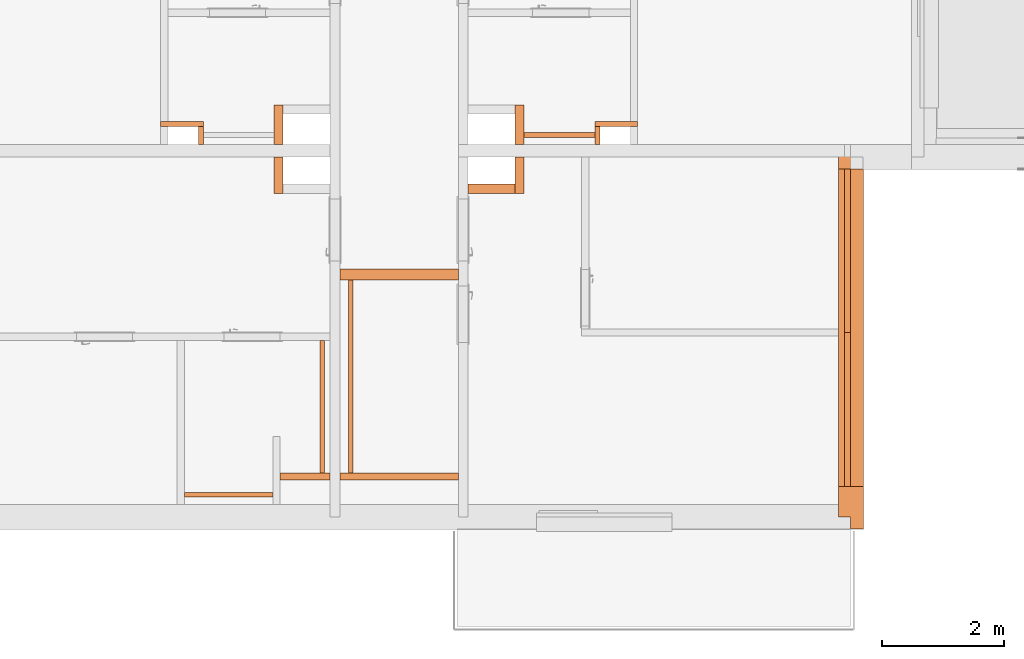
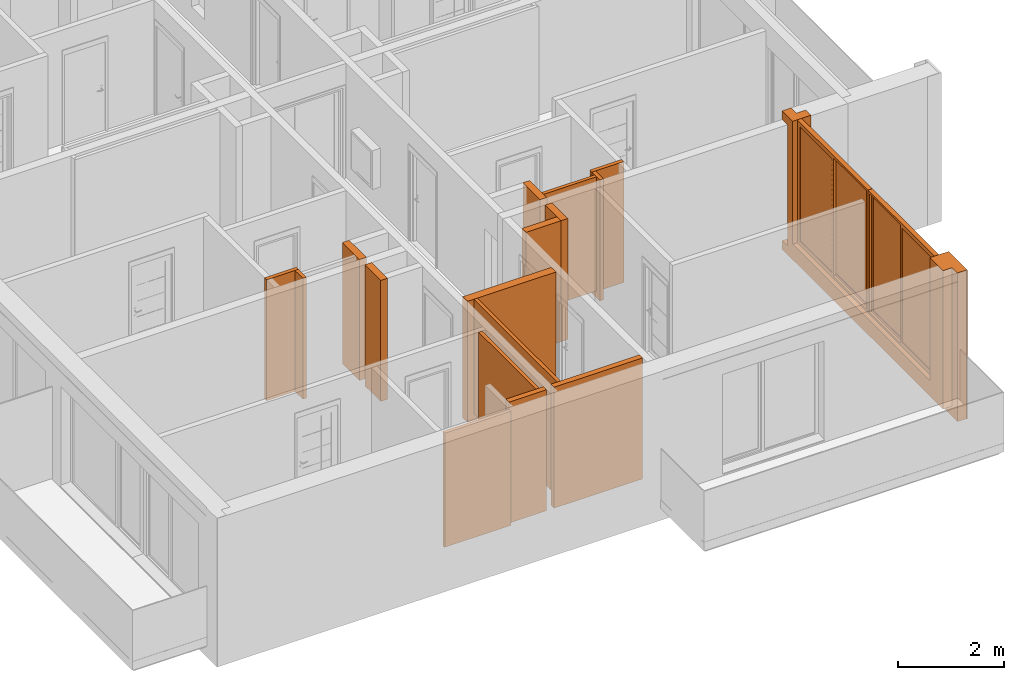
# One storey, part 64 of 67: 19 proxies, 2 openings.
"""IFC2X3 building model written with IfcOpenShell, lengths in millimetres."""

from ifc_helpers import new_model, entity, si_unit, converted_unit, derived_unit, money_unit, direction, frame, origin_with_axes, origin_2d_with_axis, place, context, subcontext, project, spatial, rectangle, extrude, open_shell, faceted_brep, surface_model, material, material_list, type_object, element, fill, save


model = new_model("IFC2X3")

# Units and contexts
model_context = context("Model", 3, precision=0.01, world=origin_with_axes(), true_north=direction((0.34421633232, 0.938890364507)))
body_context = subcontext(model_context, "Body", "Model", "MODEL_VIEW")
ifc_project = project(units=[si_unit("LENGTHUNIT", "METRE", prefix="MILLI"), si_unit("AREAUNIT", "SQUARE_METRE"), si_unit("VOLUMEUNIT", "CUBIC_METRE"), converted_unit("PLANEANGLEUNIT", "DEGREE", entity("IfcPlaneAngleMeasure", 0.0174532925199), si_unit("PLANEANGLEUNIT", "RADIAN"), dimensions=[0, 0, 0, 0, 0, 0, 0]), si_unit("SOLIDANGLEUNIT", "STERADIAN"), money_unit("USD"), converted_unit("TIMEUNIT", "Year", entity("IfcTimeMeasure", 31556926.0), si_unit("TIMEUNIT", "SECOND"), dimensions=[0, 0, 1, 0, 0, 0, 0]), si_unit("MASSUNIT", "GRAM", prefix="KILO"), si_unit("THERMODYNAMICTEMPERATUREUNIT", "DEGREE_CELSIUS"), si_unit("LUMINOUSINTENSITYUNIT", "LUMEN"), si_unit("ENERGYUNIT", "JOULE", prefix="MEGA"), derived_unit("THERMALCONDUCTANCEUNIT", [(si_unit("POWERUNIT", "WATT"), 1), (si_unit("LENGTHUNIT", "METRE"), -1), (si_unit("THERMODYNAMICTEMPERATUREUNIT", "KELVIN"), -1)]), derived_unit("SPECIFICHEATCAPACITYUNIT", [(si_unit("ENERGYUNIT", "JOULE"), 1), (si_unit("MASSUNIT", "GRAM", prefix="KILO"), -1), (si_unit("THERMODYNAMICTEMPERATUREUNIT", "KELVIN"), -1)]), derived_unit("MASSDENSITYUNIT", [(si_unit("MASSUNIT", "GRAM", prefix="KILO"), 1), (si_unit("VOLUMEUNIT", "CUBIC_METRE"), -1)])], contexts=[model_context])

# Site, building, storey
site_placement = place(None, origin_with_axes())
site = spatial("IfcSite", under=ifc_project, at=site_placement, Name="USTRONIE MORSKIE", CompositionType="ELEMENT")
building_placement = place(site_placement, origin_with_axes())
building = spatial("IfcBuilding", under=site, at=building_placement, Name="Budynek", CompositionType="ELEMENT")
storey_placement = place(building_placement, frame((0.0, 0.0, 4000.0), z_axis=(0.0, 0.0, 1.0), x_axis=(1.0, 0.0, 0.0)))
storey = spatial("IfcBuildingStorey", under=building, at=storey_placement, Name="PIĘTRO 1", CompositionType="ELEMENT", Elevation=4000.0)

# Proxies
ifc_material_1 = material(Name="Bloczki silikatowe")
building_element_proxy_type_1 = type_object("IfcBuildingElementProxyType", Name="Bloczki silikatowe 120", PredefinedType="NOTDEFINED")
proxy_1_placement = place(storey_placement, frame((416017.920919, 709701.199036, -160.0), z_axis=(0.0, 0.0, 1.0), x_axis=(1.0, 0.0, 0.0)))
element("IfcBuildingElementProxy", 1, at=proxy_1_placement, inside=storey, type_object=building_element_proxy_type_1, material=ifc_material_1, Name="SW-04", context=body_context, shape_type="Brep", body=[
    faceted_brep([(2019.975, 120.0, 0.0), (79.9999999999, 120.0, 0.0), (79.9999999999, 120.0, 2800.0), (2019.975, 120.0, 2800.0), (2019.975, -4.54747350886e-10, 0.0), (79.9999999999, -1.13686837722e-10, 0.0), (79.9999999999, -1.13686837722e-10, 2800.0), (2019.975, -4.54747350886e-10, 2800.0)], [[[0, 1, 2, 3]], [[4, 5, 1, 0]], [[5, 6, 2, 1]], [[3, 2, 6, 7]], [[3, 7, 4, 0]], [[7, 6, 5, 4]]]),
])
proxy_2_placement = place(storey_placement, frame((416017.920919, 709701.199036, -160.0), z_axis=(0.0, 0.0, 1.0), x_axis=(-1.0, 0.0, 0.0)))
element("IfcBuildingElementProxy", 2, at=proxy_2_placement, inside=storey, type_object=building_element_proxy_type_1, material=ifc_material_1, Name="SW-04", context=body_context, shape_type="Brep", body=[
    faceted_brep([(900.0, -120.0, 2800.0), (900.0, 0.0, 2800.0), (80.0, 0.0, 2800.0), (80.0, -120.0, 2800.0), (900.0, -120.0, 0.0), (900.0, 0.0, 0.0), (80.0, 0.0, 0.0), (80.0, -120.0, 0.0)], [[[0, 1, 2, 3]], [[1, 0, 4, 5]], [[1, 5, 6, 2]], [[7, 3, 2, 6]], [[4, 0, 3, 7]], [[5, 4, 7, 6]]]),
])

# Proxies, openings
ifc_material_2 = material(Name="Tynk zewnętrzny")
ifc_material_3 = material(Name="Wełna ELEW")
ifc_material_4 = material(Name="Beton konstrukcyjny B25")
ifc_material_list_1 = material_list([ifc_material_2, ifc_material_3, ifc_material_4])
building_element_proxy_type_2 = type_object("IfcBuildingElementProxyType", Name="20+20 410", PredefinedType="NOTDEFINED")
proxy_3_placement = place(storey_placement, frame((424367.920919, 715101.199036, -600.0), z_axis=(0.0, 0.0, 1.0), x_axis=(0.0, -1.0, 0.0)))
proxy_3 = element("IfcBuildingElementProxy", 3, at=proxy_3_placement, inside=storey, type_object=building_element_proxy_type_2, material=ifc_material_list_1, Name="SZ-01", context=body_context, shape_type="Brep", body=[
    faceted_brep([(300.0, 310.0, 440.0), (300.0, 310.0, 3240.0), (300.0, 310.0, 3440.0), (6210.0, 310.0, 3440.0), (6210.0, 310.0, 0.0), (310.0, 310.0, 0.0), (310.0, 310.0, 240.0), (300.0, 310.0, 240.0), (300.0, 300.0, 3240.0), (300.0, 300.0, 440.0), (300.0, 300.0, 3440.0), (6210.0, 300.0, 3440.0), (6210.0, 300.0, 0.0), (310.0, 300.0, 0.0), (310.0, 300.0, 240.0), (300.0, 300.0, 240.0)], [[[0, 1, 2, 3, 4, 5, 6, 7]], [[8, 1, 0, 9]], [[1, 8, 10, 2]], [[2, 10, 11, 3]], [[4, 3, 11, 12]], [[13, 5, 4, 12]], [[6, 5, 13, 14]], [[15, 7, 6, 14]], [[9, 0, 7, 15]], [[8, 9, 15, 14, 13, 12, 11, 10]]]),
    faceted_brep([(100.0, 300.0, 240.0), (100.0, 300.0, 3440.0), (6200.0, 300.0, 3440.0), (6200.0, 300.0, 0.0), (300.000011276, 300.0, 0.0), (300.000011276, 300.0, 240.0), (100.0, 100.0, 240.0), (100.0, 100.0, 3440.0), (6200.0, 100.0, 3440.0), (6200.0, 100.0, 0.0), (300.000012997, 100.0, 0.0), (300.000012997, 100.0, 240.0)], [[[0, 1, 2, 3, 4, 5]], [[1, 0, 6, 7]], [[2, 1, 7, 8]], [[9, 3, 2, 8]], [[9, 10, 4, 3]], [[11, 5, 4, 10]], [[11, 6, 0, 5]], [[7, 6, 11, 10, 9, 8]]]),
    faceted_brep([(6000.0, 100.0, 240.0), (100.0, 100.0, 240.0), (-100.0, 100.0, 240.0), (-100.0, 100.0, 440.0), (100.0, 100.0, 440.0), (100.0, 100.0, 3240.0), (-100.0, 100.0, 3240.0), (-100.0, 100.0, 3440.0), (6000.0, 100.0, 3440.0), (100.0, 0.0, 240.0), (6000.0, -100.0, 240.0), (100.0, -100.0, 240.0), (-100.0, 0.0, 240.0), (-100.0, -100.0, 240.0), (-100.0, -100.0, 440.0), (100.0, -100.0, 440.0), (100.0, -100.0, 3240.0), (-100.0, -100.0, 3240.0), (-100.0, -100.0, 3440.0), (6000.0, -100.0, 3440.0)], [[[0, 1, 2, 3, 4, 5, 6, 7, 8]], [[9, 1, 0, 10, 11]], [[1, 9, 12, 2]], [[13, 14, 3, 2, 12]], [[15, 4, 3, 14]], [[16, 5, 4, 15]], [[16, 17, 6, 5]], [[7, 6, 17, 18]], [[19, 8, 7, 18]], [[10, 0, 8, 19]], [[11, 10, 19, 18, 17, 16, 15, 14, 13]], [[9, 11, 13, 12]]]),
])
opening_1_placement = place(proxy_3_placement, frame((4240.0, 0.0, 600.0), z_axis=(0.0, 0.0, 1.0), x_axis=(1.0, 0.0, 0.0)))
opening_1 = element("IfcOpeningElement", 4, at=opening_1_placement, cuts=proxy_3, Name="Wz.04", context=body_context, shape_type="SweptSolid", body=[
    extrude(rectangle(XDim=2520.0, YDim=2840.0, at=origin_2d_with_axis()), frame((0.0, 0.0, 1420.0), z_axis=(0.0, 1.0, 0.0), x_axis=(1.0, 0.0, 0.0)), (0.0, 0.0, 1.0), 720.0),
    extrude(rectangle(XDim=2520.0, YDim=2840.0, at=origin_2d_with_axis()), frame((0.0, 0.0, 1420.0), z_axis=(0.0, -1.0, 0.0), x_axis=(1.0, 0.0, 0.0)), (0.0, 0.0, 1.0), 510.0),
])
opening_2_placement = place(proxy_3_placement, frame((1640.0, 0.0, 600.0), z_axis=(0.0, 0.0, 1.0), x_axis=(1.0, 0.0, 0.0)))
opening_2 = element("IfcOpeningElement", 5, at=opening_2_placement, cuts=proxy_3, Name="Wz.04", context=body_context, shape_type="SweptSolid", body=[
    extrude(rectangle(XDim=2680.0, YDim=2840.0, at=origin_2d_with_axis()), frame((0.0, 0.0, 1420.0), z_axis=(0.0, -1.0, 0.0), x_axis=(-1.0, 0.0, 0.0)), (0.0, 0.0, -1.0), 720.0),
    extrude(rectangle(XDim=2680.0, YDim=2840.0, at=origin_2d_with_axis()), frame((0.0, 0.0, 1420.0), z_axis=(0.0, 1.0, 0.0), x_axis=(-1.0, 0.0, 0.0)), (0.0, 0.0, -1.0), 510.0),
])
building_element_proxy_type_3 = type_object("IfcBuildingElementProxyType", Name="Okno przesuwne, 2-skrzydłowe 23", PredefinedType="NOTDEFINED")
proxy_4_placement = place(opening_1_placement, frame((1260.0, 0.0, 0.0), z_axis=(0.0, 0.0, 1.0), x_axis=(-1.0, 0.0, 0.0)))
proxy_4 = element("IfcBuildingElementProxy", 6, at=proxy_4_placement, inside=storey, type_object=building_element_proxy_type_3, Name="Wz.04", context=body_context, shape_type="SurfaceModel", body=[
    faceted_brep([(2470.0, -100.0, 50.0), (2470.0, -100.0, 2790.0), (2470.0, 0.0, 2790.0), (2470.0, 0.0, 50.0), (2520.0, -100.0, 50.0), (2520.0, -100.0, 2790.0), (2520.0, 0.0, 2790.0), (2520.0, 0.0, 50.0)], [[[0, 1, 2, 3]], [[0, 4, 5, 1]], [[1, 5, 6, 2]], [[3, 2, 6, 7]], [[4, 0, 3, 7]], [[5, 4, 7, 6]]]),
    faceted_brep([(0.0, -100.0, 50.0), (0.0, -100.0, 2790.0), (0.0, 0.0, 2790.0), (0.0, 0.0, 50.0), (50.0, -100.0, 50.0), (50.0, -100.0, 2790.0), (50.0, 0.0, 2790.0), (50.0, 0.0, 50.0)], [[[0, 1, 2, 3]], [[0, 4, 5, 1]], [[1, 5, 6, 2]], [[3, 2, 6, 7]], [[4, 0, 3, 7]], [[5, 4, 7, 6]]]),
    faceted_brep([(0.0, -100.0, 50.0), (50.0, -100.0, 50.0), (50.0, 0.0, 50.0), (0.0, 0.0, 50.0), (0.0, -100.0, 0.0), (2520.0, -100.0, 0.0), (2520.0, -100.0, 50.0), (2470.0, -100.0, 50.0), (2470.0, 0.0, 50.0), (2520.0, 0.0, 50.0), (2520.0, 0.0, 0.0), (0.0, 0.0, 0.0)], [[[0, 1, 2, 3]], [[0, 4, 5, 6, 7, 1]], [[1, 7, 8, 2]], [[3, 2, 8, 9, 10, 11]], [[4, 0, 3, 11]], [[5, 4, 11, 10]], [[6, 5, 10, 9]], [[7, 6, 9, 8]]]),
    faceted_brep([(0.0, -100.0, 2840.0), (2520.0, -100.0, 2840.0), (2520.0, 0.0, 2840.0), (0.0, 0.0, 2840.0), (0.0, -100.0, 2790.0), (50.0, -100.0, 2790.0), (2470.0, -100.0, 2790.0), (2520.0, -100.0, 2790.0), (2520.0, 0.0, 2790.0), (2470.0, 0.0, 2790.0), (50.0, 0.0, 2790.0), (0.0, 0.0, 2790.0)], [[[0, 1, 2, 3]], [[0, 4, 5, 6, 7, 1]], [[1, 7, 8, 2]], [[3, 2, 8, 9, 10, 11]], [[4, 0, 3, 11]], [[5, 4, 11, 10]], [[6, 5, 10, 9]], [[7, 6, 9, 8]]]),
    faceted_brep([(2420.0, -100.0, 2740.0), (2470.0, -100.0, 2740.0), (2470.0, -50.0, 2740.0), (2420.0, -50.0, 2740.0), (2420.0, -100.0, 100.0), (2470.0, -100.0, 100.0), (2470.0, -50.0, 100.0), (2420.0, -50.0, 100.0)], [[[0, 1, 2, 3]], [[0, 4, 5, 1]], [[1, 5, 6, 2]], [[3, 2, 6, 7]], [[4, 0, 3, 7]], [[5, 4, 7, 6]]]),
    faceted_brep([(1285.0, -100.0, 100.0), (1235.0, -100.0, 100.0), (1235.0, -50.0, 100.0), (1285.0, -50.0, 100.0), (1285.0, -100.0, 2740.0), (1235.0, -100.0, 2740.0), (1235.0, -50.0, 2740.0), (1285.0, -50.0, 2740.0)], [[[0, 1, 2, 3]], [[0, 4, 5, 1]], [[1, 5, 6, 2]], [[3, 2, 6, 7]], [[4, 0, 3, 7]], [[5, 4, 7, 6]]]),
    faceted_brep([(1235.0, -100.0, 50.0), (1235.0, -100.0, 100.0), (1235.0, -50.0, 100.0), (1235.0, -50.0, 50.0), (2470.0, -100.0, 50.0), (2470.0, -100.0, 100.0), (2420.0, -100.0, 100.0), (1285.0, -100.0, 100.0), (1285.0, -50.0, 100.0), (2420.0, -50.0, 100.0), (2470.0, -50.0, 100.0), (2470.0, -50.0, 50.0)], [[[0, 1, 2, 3]], [[0, 4, 5, 6, 7, 1]], [[1, 7, 8, 2]], [[3, 2, 8, 9, 10, 11]], [[4, 0, 3, 11]], [[5, 4, 11, 10]], [[6, 5, 10, 9]], [[7, 6, 9, 8]]]),
    faceted_brep([(2470.0, -100.0, 2790.0), (2470.0, -100.0, 2740.0), (2470.0, -50.0, 2740.0), (2470.0, -50.0, 2790.0), (1235.0, -100.0, 2790.0), (1235.0, -100.0, 2740.0), (1285.0, -100.0, 2740.0), (2420.0, -100.0, 2740.0), (2420.0, -50.0, 2740.0), (1285.0, -50.0, 2740.0), (1235.0, -50.0, 2740.0), (1235.0, -50.0, 2790.0)], [[[0, 1, 2, 3]], [[0, 4, 5, 6, 7, 1]], [[1, 7, 8, 2]], [[3, 2, 8, 9, 10, 11]], [[4, 0, 3, 11]], [[5, 4, 11, 10]], [[6, 5, 10, 9]], [[7, 6, 9, 8]]]),
    surface_model("IfcShellBasedSurfaceModel", [(2420.0, -85.0, 100.0), (2420.0, -85.0, 2740.0), (1285.0, -85.0, 2740.0), (1285.0, -85.0, 100.0)], [open_shell([[[0, 1, 2, 3]]])]),
    surface_model("IfcShellBasedSurfaceModel", [(2420.0, -65.0, 100.0), (1285.0, -65.0, 100.0), (1285.0, -65.0, 2740.0), (2420.0, -65.0, 2740.0)], [open_shell([[[0, 1, 2, 3]]])]),
    faceted_brep([(1235.0, -50.0, 2740.0), (1285.0, -50.0, 2740.0), (1285.0, 0.0, 2740.0), (1235.0, 0.0, 2740.0), (1235.0, -50.0, 100.0), (1285.0, -50.0, 100.0), (1285.0, 0.0, 100.0), (1235.0, 0.0, 100.0)], [[[0, 1, 2, 3]], [[0, 4, 5, 1]], [[1, 5, 6, 2]], [[3, 2, 6, 7]], [[4, 0, 3, 7]], [[5, 4, 7, 6]]]),
    faceted_brep([(99.9999999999, -50.0, 100.0), (50.0, -50.0, 100.0), (50.0, 0.0, 100.0), (99.9999999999, 0.0, 100.0), (99.9999999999, -50.0, 2740.0), (50.0, -50.0, 2740.0), (50.0, 0.0, 2740.0), (99.9999999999, 0.0, 2740.0)], [[[0, 1, 2, 3]], [[0, 4, 5, 1]], [[1, 5, 6, 2]], [[3, 2, 6, 7]], [[4, 0, 3, 7]], [[5, 4, 7, 6]]]),
    faceted_brep([(50.0, -50.0, 50.0), (50.0, -50.0, 100.0), (50.0, 0.0, 100.0), (50.0, 0.0, 50.0), (1285.0, -50.0, 50.0), (1285.0, -50.0, 100.0), (1235.0, -50.0, 100.0), (99.9999999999, -50.0, 100.0), (99.9999999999, 0.0, 100.0), (1235.0, 0.0, 100.0), (1285.0, 0.0, 100.0), (1285.0, 0.0, 50.0)], [[[0, 1, 2, 3]], [[0, 4, 5, 6, 7, 1]], [[1, 7, 8, 2]], [[3, 2, 8, 9, 10, 11]], [[4, 0, 3, 11]], [[5, 4, 11, 10]], [[6, 5, 10, 9]], [[7, 6, 9, 8]]]),
    faceted_brep([(1285.0, -50.0, 2790.0), (1285.0, -50.0, 2740.0), (1285.0, 0.0, 2740.0), (1285.0, 0.0, 2790.0), (50.0, -50.0, 2790.0), (50.0, -50.0, 2740.0), (99.9999999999, -50.0, 2740.0), (1235.0, -50.0, 2740.0), (1235.0, 0.0, 2740.0), (99.9999999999, 0.0, 2740.0), (50.0, 0.0, 2740.0), (50.0, 0.0, 2790.0)], [[[0, 1, 2, 3]], [[0, 4, 5, 6, 7, 1]], [[1, 7, 8, 2]], [[3, 2, 8, 9, 10, 11]], [[4, 0, 3, 11]], [[5, 4, 11, 10]], [[6, 5, 10, 9]], [[7, 6, 9, 8]]]),
    surface_model("IfcShellBasedSurfaceModel", [(1235.0, -35.0, 100.0), (1235.0, -35.0, 2740.0), (99.9999999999, -35.0, 2740.0), (99.9999999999, -35.0, 100.0)], [open_shell([[[0, 1, 2, 3]]])]),
    surface_model("IfcShellBasedSurfaceModel", [(1235.0, -15.0, 100.0), (99.9999999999, -15.0, 100.0), (99.9999999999, -15.0, 2740.0), (1235.0, -15.0, 2740.0)], [open_shell([[[0, 1, 2, 3]]])]),
])
fill(opening_1, proxy_4)
proxy_5_placement = place(opening_2_placement, frame((1340.0, 0.0, 0.0), z_axis=(0.0, 0.0, 1.0), x_axis=(-1.0, 0.0, 0.0)))
proxy_5 = element("IfcBuildingElementProxy", 7, at=proxy_5_placement, inside=storey, type_object=building_element_proxy_type_3, Name="Wz.04", context=body_context, shape_type="SurfaceModel", body=[
    faceted_brep([(50.0, -100.0, 50.0), (50.0, 0.0, 50.0), (50.0, 0.0, 2790.0), (50.0, -100.0, 2790.0), (0.0, -100.0, 50.0), (0.0, 0.0, 50.0), (0.0, 0.0, 2790.0), (0.0, -100.0, 2790.0)], [[[0, 1, 2, 3]], [[4, 5, 1, 0]], [[1, 5, 6, 2]], [[3, 2, 6, 7]], [[0, 3, 7, 4]], [[7, 6, 5, 4]]]),
    faceted_brep([(2680.0, -100.0, 50.0), (2680.0, 0.0, 50.0), (2680.0, 0.0, 2790.0), (2680.0, -100.0, 2790.0), (2630.0, -100.0, 50.0), (2630.0, 0.0, 50.0), (2630.0, 0.0, 2790.0), (2630.0, -100.0, 2790.0)], [[[0, 1, 2, 3]], [[4, 5, 1, 0]], [[1, 5, 6, 2]], [[3, 2, 6, 7]], [[0, 3, 7, 4]], [[7, 6, 5, 4]]]),
    faceted_brep([(2680.0, -100.0, 50.0), (2680.0, 0.0, 50.0), (2630.0, 0.0, 50.0), (2630.0, -100.0, 50.0), (2680.0, -100.0, 0.0), (2680.0, 0.0, 0.0), (0.0, 0.0, 0.0), (0.0, 0.0, 50.0), (50.0, 0.0, 50.0), (50.0, -100.0, 50.0), (0.0, -100.0, 50.0), (0.0, -100.0, 0.0)], [[[0, 1, 2, 3]], [[4, 5, 1, 0]], [[1, 5, 6, 7, 8, 2]], [[3, 2, 8, 9]], [[0, 3, 9, 10, 11, 4]], [[11, 6, 5, 4]], [[10, 7, 6, 11]], [[9, 8, 7, 10]]]),
    faceted_brep([(2680.0, -100.0, 2840.0), (2680.0, 0.0, 2840.0), (0.0, 0.0, 2840.0), (0.0, -100.0, 2840.0), (2680.0, -100.0, 2790.0), (2680.0, 0.0, 2790.0), (2630.0, 0.0, 2790.0), (50.0, 0.0, 2790.0), (0.0, 0.0, 2790.0), (0.0, -100.0, 2790.0), (50.0, -100.0, 2790.0), (2630.0, -100.0, 2790.0)], [[[0, 1, 2, 3]], [[4, 5, 1, 0]], [[1, 5, 6, 7, 8, 2]], [[3, 2, 8, 9]], [[0, 3, 9, 10, 11, 4]], [[11, 6, 5, 4]], [[10, 7, 6, 11]], [[9, 8, 7, 10]]]),
    faceted_brep([(100.0, -100.0, 2740.0), (100.0, -50.0, 2740.0), (50.0, -50.0, 2740.0), (50.0, -100.0, 2740.0), (100.0, -100.0, 100.0), (100.0, -50.0, 100.0), (50.0, -50.0, 100.0), (50.0, -100.0, 100.0)], [[[0, 1, 2, 3]], [[4, 5, 1, 0]], [[1, 5, 6, 2]], [[3, 2, 6, 7]], [[0, 3, 7, 4]], [[7, 6, 5, 4]]]),
    faceted_brep([(1315.0, -100.0, 100.0), (1315.0, -50.0, 100.0), (1365.0, -50.0, 100.0), (1365.0, -100.0, 100.0), (1315.0, -100.0, 2740.0), (1315.0, -50.0, 2740.0), (1365.0, -50.0, 2740.0), (1365.0, -100.0, 2740.0)], [[[0, 1, 2, 3]], [[4, 5, 1, 0]], [[1, 5, 6, 2]], [[3, 2, 6, 7]], [[0, 3, 7, 4]], [[7, 6, 5, 4]]]),
    faceted_brep([(1365.0, -100.0, 50.0), (1365.0, -50.0, 50.0), (1365.0, -50.0, 100.0), (1365.0, -100.0, 100.0), (50.0, -100.0, 50.0), (50.0, -50.0, 50.0), (50.0, -50.0, 100.0), (100.0, -50.0, 100.0), (1315.0, -50.0, 100.0), (1315.0, -100.0, 100.0), (100.0, -100.0, 100.0), (50.0, -100.0, 100.0)], [[[0, 1, 2, 3]], [[4, 5, 1, 0]], [[1, 5, 6, 7, 8, 2]], [[3, 2, 8, 9]], [[0, 3, 9, 10, 11, 4]], [[11, 6, 5, 4]], [[10, 7, 6, 11]], [[9, 8, 7, 10]]]),
    faceted_brep([(50.0, -100.0, 2790.0), (50.0, -50.0, 2790.0), (50.0, -50.0, 2740.0), (50.0, -100.0, 2740.0), (1365.0, -100.0, 2790.0), (1365.0, -50.0, 2790.0), (1365.0, -50.0, 2740.0), (1315.0, -50.0, 2740.0), (100.0, -50.0, 2740.0), (100.0, -100.0, 2740.0), (1315.0, -100.0, 2740.0), (1365.0, -100.0, 2740.0)], [[[0, 1, 2, 3]], [[4, 5, 1, 0]], [[1, 5, 6, 7, 8, 2]], [[3, 2, 8, 9]], [[0, 3, 9, 10, 11, 4]], [[11, 6, 5, 4]], [[10, 7, 6, 11]], [[9, 8, 7, 10]]]),
    surface_model("IfcShellBasedSurfaceModel", [(100.0, -85.0, 100.0), (1315.0, -85.0, 100.0), (1315.0, -85.0, 2740.0), (100.0, -85.0, 2740.0)], [open_shell([[[0, 1, 2, 3]]])]),
    surface_model("IfcShellBasedSurfaceModel", [(100.0, -65.0, 100.0), (100.0, -65.0, 2740.0), (1315.0, -65.0, 2740.0), (1315.0, -65.0, 100.0)], [open_shell([[[0, 1, 2, 3]]])]),
    faceted_brep([(1365.0, -50.0, 2740.0), (1365.0, 0.0, 2740.0), (1315.0, 0.0, 2740.0), (1315.0, -50.0, 2740.0), (1365.0, -50.0, 100.0), (1365.0, 0.0, 100.0), (1315.0, 0.0, 100.0), (1315.0, -50.0, 100.0)], [[[0, 1, 2, 3]], [[4, 5, 1, 0]], [[1, 5, 6, 2]], [[3, 2, 6, 7]], [[0, 3, 7, 4]], [[7, 6, 5, 4]]]),
    faceted_brep([(2580.0, -50.0, 100.0), (2580.0, 0.0, 100.0), (2630.0, 0.0, 100.0), (2630.0, -50.0, 100.0), (2580.0, -50.0, 2740.0), (2580.0, 0.0, 2740.0), (2630.0, 0.0, 2740.0), (2630.0, -50.0, 2740.0)], [[[0, 1, 2, 3]], [[4, 5, 1, 0]], [[1, 5, 6, 2]], [[3, 2, 6, 7]], [[0, 3, 7, 4]], [[7, 6, 5, 4]]]),
    faceted_brep([(2630.0, -50.0, 50.0), (2630.0, 0.0, 50.0), (2630.0, 0.0, 100.0), (2630.0, -50.0, 100.0), (1315.0, -50.0, 50.0), (1315.0, 0.0, 50.0), (1315.0, 0.0, 100.0), (1365.0, 0.0, 100.0), (2580.0, 0.0, 100.0), (2580.0, -50.0, 100.0), (1365.0, -50.0, 100.0), (1315.0, -50.0, 100.0)], [[[0, 1, 2, 3]], [[4, 5, 1, 0]], [[1, 5, 6, 7, 8, 2]], [[3, 2, 8, 9]], [[0, 3, 9, 10, 11, 4]], [[11, 6, 5, 4]], [[10, 7, 6, 11]], [[9, 8, 7, 10]]]),
    faceted_brep([(1315.0, -50.0, 2790.0), (1315.0, 0.0, 2790.0), (1315.0, 0.0, 2740.0), (1315.0, -50.0, 2740.0), (2630.0, -50.0, 2790.0), (2630.0, 0.0, 2790.0), (2630.0, 0.0, 2740.0), (2580.0, 0.0, 2740.0), (1365.0, 0.0, 2740.0), (1365.0, -50.0, 2740.0), (2580.0, -50.0, 2740.0), (2630.0, -50.0, 2740.0)], [[[0, 1, 2, 3]], [[4, 5, 1, 0]], [[1, 5, 6, 7, 8, 2]], [[3, 2, 8, 9]], [[0, 3, 9, 10, 11, 4]], [[11, 6, 5, 4]], [[10, 7, 6, 11]], [[9, 8, 7, 10]]]),
    surface_model("IfcShellBasedSurfaceModel", [(1365.0, -35.0, 100.0), (2580.0, -35.0, 100.0), (2580.0, -35.0, 2740.0), (1365.0, -35.0, 2740.0)], [open_shell([[[0, 1, 2, 3]]])]),
    surface_model("IfcShellBasedSurfaceModel", [(1365.0, -15.0, 100.0), (1365.0, -15.0, 2740.0), (2580.0, -15.0, 2740.0), (2580.0, -15.0, 100.0)], [open_shell([[[0, 1, 2, 3]]])]),
])
fill(opening_2, proxy_5)

# Proxies
building_element_proxy_type_4 = type_object("IfcBuildingElementProxyType", Name="Bloczki silikatowe 180", PredefinedType="NOTDEFINED")
proxy_6_placement = place(storey_placement, frame((416017.920919, 713071.199036, -160.0), z_axis=(0.0, 0.0, 1.0), x_axis=(1.0, 0.0, 0.0)))
element("IfcBuildingElementProxy", 8, at=proxy_6_placement, inside=storey, type_object=building_element_proxy_type_4, material=ifc_material_1, Name="SW-02", context=body_context, shape_type="Brep", body=[
    faceted_brep([(2019.975, -90.0, 2800.0), (2019.975, 90.0, 2800.0), (80.0, 90.0, 2800.0), (80.0, -90.0, 2800.0), (2019.975, -90.0, 0.0), (2019.975, 90.0, 0.0), (80.0, 90.0, 0.0), (80.0, -90.0, 0.0)], [[[0, 1, 2, 3]], [[1, 0, 4, 5]], [[1, 5, 6, 2]], [[7, 3, 2, 6]], [[4, 0, 3, 7]], [[5, 4, 7, 6]]]),
])
ifc_material_5 = material(Name="-Pustka powietrzna")
ifc_material_6 = material(Name="Płyta GK")
ifc_material_list_2 = material_list([ifc_material_5, ifc_material_6, ifc_material_6])
building_element_proxy_type_5 = type_object("IfcBuildingElementProxyType", Name="330-SD GK 2-warstwy 75", PredefinedType="NOTDEFINED")
proxy_7_placement = place(storey_placement, frame((415822.920919, 712051.218403, -160.0), z_axis=(0.0, 0.0, 1.0), x_axis=(0.0, -1.0, 0.0)))
element("IfcBuildingElementProxy", 9, at=proxy_7_placement, inside=storey, type_object=building_element_proxy_type_5, material=ifc_material_list_2, Name="Ściana-009", context=body_context, shape_type="Brep", body=[
    faceted_brep([(2230.01936646, 25.0, 160.0), (59.9999999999, 25.0, 160.0), (59.9999999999, 25.0, 2800.0), (2230.01936646, 25.0, 2800.0), (59.9999999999, -25.0, 160.0), (2230.01936646, -25.0, 160.0), (59.9999999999, -25.0, 2800.0), (2230.01936646, -25.0, 2800.0)], [[[0, 1, 2, 3]], [[4, 1, 0, 5]], [[1, 4, 6, 2]], [[7, 3, 2, 6]], [[5, 0, 3, 7]], [[4, 5, 7, 6]]]),
    faceted_brep([(2230.01936646, -25.0, 145.0), (59.9999999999, -25.0, 145.0), (59.9999999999, -25.0, 2800.0), (2230.01936646, -25.0, 2800.0), (59.9999999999, -37.5, 145.0), (2230.01936646, -37.5, 145.0), (59.9999999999, -37.5, 2800.0), (2230.01936646, -37.5, 2800.0)], [[[0, 1, 2, 3]], [[4, 1, 0, 5]], [[1, 4, 6, 2]], [[7, 3, 2, 6]], [[5, 0, 3, 7]], [[4, 5, 7, 6]]]),
    faceted_brep([(2230.01936646, -37.5, 145.0), (59.9999999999, -37.5, 145.0), (59.9999999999, -37.5, 2800.0), (2230.01936646, -37.5, 2800.0), (59.9999999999, -50.0, 145.0), (2230.01936646, -50.0, 145.0), (59.9999999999, -50.0, 2800.0), (2230.01936646, -50.0, 2800.0)], [[[0, 1, 2, 3]], [[4, 1, 0, 5]], [[1, 4, 6, 2]], [[7, 3, 2, 6]], [[5, 0, 3, 7]], [[4, 5, 7, 6]]]),
])
ifc_material_list_3 = material_list([ifc_material_6, ifc_material_6, ifc_material_5])
proxy_8_placement = place(storey_placement, frame((416262.920919, 713071.199036, -160.0), z_axis=(0.0, 0.0, 1.0), x_axis=(0.0, -1.0, 0.0)))
element("IfcBuildingElementProxy", 10, at=proxy_8_placement, inside=storey, type_object=building_element_proxy_type_5, material=ifc_material_list_3, Name="Ściana-009", context=body_context, shape_type="Brep", body=[
    faceted_brep([(3249.99999956, 50.0, 145.0), (90.0, 50.0, 145.0), (90.0, 50.0, 2800.0), (3249.99999956, 50.0, 2800.0), (90.0, 37.5, 145.0), (3249.99999956, 37.5, 145.0), (90.0, 37.5, 2800.0), (3249.99999956, 37.5, 2800.0)], [[[0, 1, 2, 3]], [[4, 1, 0, 5]], [[1, 4, 6, 2]], [[7, 3, 2, 6]], [[5, 0, 3, 7]], [[4, 5, 7, 6]]]),
    faceted_brep([(3249.99999956, 37.5, 145.0), (90.0, 37.5, 145.0), (90.0, 37.5, 2800.0), (3249.99999956, 37.5, 2800.0), (90.0, 25.0, 145.0), (3249.99999956, 25.0, 145.0), (90.0, 25.0, 2800.0), (3249.99999956, 25.0, 2800.0)], [[[0, 1, 2, 3]], [[4, 1, 0, 5]], [[1, 4, 6, 2]], [[7, 3, 2, 6]], [[5, 0, 3, 7]], [[4, 5, 7, 6]]]),
    faceted_brep([(3249.99999956, 25.0, 160.0), (90.0, 25.0, 160.0), (90.0, 25.0, 2800.0), (3249.99999956, 25.0, 2800.0), (90.0, -25.0, 160.0), (3249.99999956, -25.0, 160.0), (90.0, -25.0, 2800.0), (3249.99999956, -25.0, 2800.0)], [[[0, 1, 2, 3]], [[4, 1, 0, 5]], [[1, 4, 6, 2]], [[7, 3, 2, 6]], [[5, 0, 3, 7]], [[4, 5, 7, 6]]]),
])
proxy_9_placement = place(storey_placement, frame((420317.920919, 715371.200737, -180.0), z_axis=(0.0, 0.0, 1.0), x_axis=(-1.0, 0.0, 0.0)))
element("IfcBuildingElementProxy", 11, at=proxy_9_placement, inside=storey, type_object=building_element_proxy_type_5, material=ifc_material_list_2, Name="Ściana-009", context=body_context, shape_type="Brep", body=[
    faceted_brep([(40.0, 50.0, 180.0), (40.0, 0.0, 180.0), (40.0, 0.0, 2820.0), (40.0, 50.0, 2820.0), (1199.99909883, 0.0, 180.0), (1199.99909883, 50.0, 180.0), (1199.99909883, 0.0, 2820.0), (1199.99909883, 50.0, 2820.0)], [[[0, 1, 2, 3]], [[4, 1, 0, 5]], [[1, 4, 6, 2]], [[7, 3, 2, 6]], [[5, 0, 3, 7]], [[4, 5, 7, 6]]]),
    faceted_brep([(40.0, 0.0, 165.0), (40.0, -12.5, 165.0), (40.0, -12.5, 2820.0), (40.0, 0.0, 2820.0), (1199.99909883, -12.5, 165.0), (1199.99909883, 0.0, 165.0), (1199.99909883, -12.5, 2820.0), (1199.99909883, 0.0, 2820.0)], [[[0, 1, 2, 3]], [[4, 1, 0, 5]], [[1, 4, 6, 2]], [[7, 3, 2, 6]], [[5, 0, 3, 7]], [[4, 5, 7, 6]]]),
    faceted_brep([(40.0, -12.5, 165.0), (40.0, -25.0, 165.0), (40.0, -25.0, 2820.0), (40.0, -12.5, 2820.0), (1199.99909883, -25.0, 165.0), (1199.99909883, -12.5, 165.0), (1199.99909883, -25.0, 2820.0), (1199.99909883, -12.5, 2820.0)], [[[0, 1, 2, 3]], [[4, 1, 0, 5]], [[1, 4, 6, 2]], [[7, 3, 2, 6]], [[5, 0, 3, 7]], [[4, 5, 7, 6]]]),
])
proxy_10_placement = place(storey_placement, frame((413487.920919, 709446.199036, -160.0), z_axis=(0.0, 0.0, 1.0), x_axis=(1.0, 0.0, 0.0)))
element("IfcBuildingElementProxy", 12, at=proxy_10_placement, inside=storey, type_object=building_element_proxy_type_5, material=ifc_material_list_3, Name="Ściana-009", context=body_context, shape_type="Brep", body=[
    faceted_brep([(1510.0, 37.5, 145.0), (1510.0, 50.0, 145.0), (1510.0, 50.0, 2800.0), (1510.0, 37.5, 2800.0), (60.0, 50.0, 145.0), (60.0, 37.5, 145.0), (60.0, 50.0, 2800.0), (60.0, 37.5, 2800.0)], [[[0, 1, 2, 3]], [[4, 1, 0, 5]], [[1, 4, 6, 2]], [[3, 2, 6, 7]], [[5, 0, 3, 7]], [[4, 5, 7, 6]]]),
    faceted_brep([(1510.0, 25.0, 145.0), (1510.0, 37.5, 145.0), (1510.0, 37.5, 2800.0), (1510.0, 25.0, 2800.0), (60.0, 37.5, 145.0), (60.0, 25.0, 145.0), (60.0, 37.5, 2800.0), (60.0, 25.0, 2800.0)], [[[0, 1, 2, 3]], [[4, 1, 0, 5]], [[1, 4, 6, 2]], [[3, 2, 6, 7]], [[5, 0, 3, 7]], [[4, 5, 7, 6]]]),
    faceted_brep([(1510.0, -25.0, 160.0), (1510.0, 25.0, 160.0), (1510.0, 25.0, 2800.0), (1510.0, -25.0, 2800.0), (60.0, 25.0, 160.0), (60.0, -25.0, 160.0), (60.0, 25.0, 2800.0), (60.0, -25.0, 2800.0)], [[[0, 1, 2, 3]], [[4, 1, 0, 5]], [[1, 4, 6, 2]], [[3, 2, 6, 7]], [[5, 0, 3, 7]], [[4, 5, 7, 6]]]),
])
building_element_proxy_type_6 = type_object("IfcBuildingElementProxyType", Name="Bloczki silikatowe 80", PredefinedType="NOTDEFINED")
proxy_11_placement = place(storey_placement, frame((413817.920924, 715101.199027, -160.0), z_axis=(0.0, 0.0, 1.0), x_axis=(0.0, 1.0, 0.0)))
element("IfcBuildingElementProxy", 13, at=proxy_11_placement, inside=storey, type_object=building_element_proxy_type_6, material=ifc_material_1, Name="Ściana-010", context=body_context, shape_type="Brep", body=[
    faceted_brep([(400.019164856, 40.0, 0.0), (400.019164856, -40.0, 0.0), (100.000000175, -40.0, 0.0), (99.9999998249, 40.0, 0.0), (400.019164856, 40.0, 2800.0), (400.019164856, -40.0, 2800.0), (100.000000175, -40.0, 2800.0), (99.9999998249, 40.0, 2800.0)], [[[0, 1, 2, 3]], [[1, 0, 4, 5]], [[1, 5, 6, 2]], [[7, 3, 2, 6]], [[4, 0, 3, 7]], [[5, 4, 7, 6]]]),
])
proxy_12_placement = place(storey_placement, frame((420317.920919, 715101.199036, -160.0), z_axis=(0.0, 0.0, 1.0), x_axis=(0.0, 1.0, 0.0)))
element("IfcBuildingElementProxy", 14, at=proxy_12_placement, inside=storey, type_object=building_element_proxy_type_6, material=ifc_material_1, Name="Ściana-010", context=body_context, shape_type="Brep", body=[
    faceted_brep([(400.01915523, -40.0, 2800.0), (400.01915523, 40.0, 2800.0), (100.0, 40.0, 2800.0), (100.0, -40.0, 2800.0), (400.01915523, -40.0, 0.0), (400.01915523, 40.0, 0.0), (100.0, 40.0, 0.0), (100.0, -40.0, 0.0)], [[[0, 1, 2, 3]], [[1, 0, 4, 5]], [[1, 5, 6, 2]], [[7, 3, 2, 6]], [[4, 0, 3, 7]], [[5, 4, 7, 6]]]),
])
proxy_13_placement = place(storey_placement, frame((413217.920919, 715541.218191, -160.0), z_axis=(0.0, 0.0, 1.0), x_axis=(1.0, 0.0, 0.0)))
element("IfcBuildingElementProxy", 15, at=proxy_13_placement, inside=storey, type_object=building_element_proxy_type_6, material=ifc_material_1, Name="Ściana-009", context=body_context, shape_type="Brep", body=[
    faceted_brep([(640.000005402, 40.0, 0.0), (640.000005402, -40.0, 0.0), (-60.0, -40.0, 0.0), (-60.0, 40.0, 0.0), (640.000005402, 40.0, 2800.0), (640.000005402, -40.0, 2800.0), (-60.0, -40.0, 2800.0), (-60.0, 40.0, 2800.0)], [[[0, 1, 2, 3]], [[1, 0, 4, 5]], [[1, 5, 6, 2]], [[7, 3, 2, 6]], [[4, 0, 3, 7]], [[5, 4, 7, 6]]]),
])
proxy_14_placement = place(storey_placement, frame((420917.920919, 715541.218191, -160.0), z_axis=(0.0, 0.0, 1.0), x_axis=(-1.0, 0.0, 0.0)))
element("IfcBuildingElementProxy", 16, at=proxy_14_placement, inside=storey, type_object=building_element_proxy_type_6, material=ifc_material_1, Name="Ściana-009", context=body_context, shape_type="Brep", body=[
    faceted_brep([(640.0, -40.0, 2800.0), (640.0, 40.0, 2800.0), (-60.0, 40.0, 2800.0), (-60.0, -40.0, 2800.0), (640.0, -40.0, 0.0), (640.0, 40.0, 0.0), (-60.0, 40.0, 0.0), (-60.0, -40.0, 0.0)], [[[0, 1, 2, 3]], [[1, 0, 4, 5]], [[1, 5, 6, 2]], [[7, 3, 2, 6]], [[4, 0, 3, 7]], [[5, 4, 7, 6]]]),
])
building_element_proxy_type_7 = type_object("IfcBuildingElementProxyType", Name="Bloczki silikatowe 150", PredefinedType="NOTDEFINED")
proxy_15_placement = place(storey_placement, frame((415092.920018, 715101.199032, -160.0), z_axis=(0.0, 0.0, 1.0), x_axis=(0.0, 1.0, 0.0)))
element("IfcBuildingElementProxy", 17, at=proxy_15_placement, inside=storey, type_object=building_element_proxy_type_7, material=ifc_material_1, Name="Ściana-009", context=body_context, shape_type="Brep", body=[
    faceted_brep([(750.001982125, 75.0, 2800.0), (99.999971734, 75.0, 2800.0), (99.999971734, -75.0, 2800.0), (750.001982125, -75.0, 2800.0), (750.001982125, 75.0, 0.0), (99.999971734, 75.0, 0.0), (99.999971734, -75.0, 0.0), (750.001982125, -75.0, 0.0)], [[[0, 1, 2, 3]], [[4, 5, 1, 0]], [[5, 6, 2, 1]], [[3, 2, 6, 7]], [[0, 3, 7, 4]], [[7, 6, 5, 4]]]),
])
proxy_16_placement = place(storey_placement, frame((419042.92182, 715101.199036, -160.0), z_axis=(0.0, 0.0, 1.0), x_axis=(0.0, 1.0, 0.0)))
element("IfcBuildingElementProxy", 18, at=proxy_16_placement, inside=storey, type_object=building_element_proxy_type_7, material=ifc_material_1, Name="Ściana-009", context=body_context, shape_type="Brep", body=[
    faceted_brep([(750.000444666, 75.0, 2800.0), (100.0, 75.0, 2800.0), (100.0, -74.9999999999, 2800.0), (750.000444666, -75.0, 2800.0), (750.000444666, 75.0, 0.0), (100.0, 75.0, 0.0), (100.0, -74.9999999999, 0.0), (750.000444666, -75.0, 0.0)], [[[0, 1, 2, 3]], [[4, 5, 1, 0]], [[5, 6, 2, 1]], [[3, 2, 6, 7]], [[7, 4, 0, 3]], [[7, 6, 5, 4]]]),
])
proxy_17_placement = place(storey_placement, frame((419042.92182, 715101.199036, -160.0), z_axis=(0.0, 0.0, 1.0), x_axis=(0.0, -1.0, 0.0)))
element("IfcBuildingElementProxy", 19, at=proxy_17_placement, inside=storey, type_object=building_element_proxy_type_7, material=ifc_material_1, Name="SW-03", context=body_context, shape_type="Brep", body=[
    faceted_brep([(700.0, 75.0, 0.0), (700.0, -75.0, 0.0), (100.0, -75.0, 0.0), (100.0, 75.0, 0.0), (700.0, 75.0, 2800.0), (700.0, -75.0, 2800.0), (100.0, -75.0, 2800.0), (100.0, 75.0, 2800.0)], [[[0, 1, 2, 3]], [[1, 0, 4, 5]], [[1, 5, 6, 2]], [[7, 3, 2, 6]], [[4, 0, 3, 7]], [[5, 4, 7, 6]]]),
])
proxy_18_placement = place(storey_placement, frame((415092.920018, 715101.199035, -160.0), z_axis=(0.0, 0.0, 1.0), x_axis=(0.0, -1.0, 0.0)))
element("IfcBuildingElementProxy", 20, at=proxy_18_placement, inside=storey, type_object=building_element_proxy_type_7, material=ifc_material_1, Name="Ściana-009", context=body_context, shape_type="Brep", body=[
    faceted_brep([(700.001982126, -74.9999999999, 2800.0), (700.001982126, 75.0, 2800.0), (100.000002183, 75.0, 2800.0), (100.000002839, -75.0, 2800.0), (700.001982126, -74.9999999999, 0.0), (700.001982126, 75.0, 0.0), (100.000002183, 75.0, 0.0), (100.000002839, -75.0, 0.0)], [[[0, 1, 2, 3]], [[1, 0, 4, 5]], [[1, 5, 6, 2]], [[7, 3, 2, 6]], [[4, 0, 3, 7]], [[5, 4, 7, 6]]]),
])
proxy_19_placement = place(storey_placement, frame((419042.92182, 714476.199036, -160.0), z_axis=(0.0, 0.0, 1.0), x_axis=(-1.0, 0.0, 0.0)))
element("IfcBuildingElementProxy", 21, at=proxy_19_placement, inside=storey, type_object=building_element_proxy_type_7, material=ifc_material_1, Name="SW-03", context=body_context, shape_type="Brep", body=[
    faceted_brep([(844.97590117, -75.0, 2800.0), (844.97590117, 75.0, 2800.0), (75.0, 75.0, 2800.0), (75.0, -75.0, 2800.0), (844.97590117, -75.0, 0.0), (844.97590117, 75.0, 0.0), (75.0, 75.0, 0.0), (75.0, -75.0, 0.0)], [[[0, 1, 2, 3]], [[1, 0, 4, 5]], [[1, 5, 6, 2]], [[7, 3, 2, 6]], [[4, 0, 3, 7]], [[5, 4, 7, 6]]]),
])

save(model, "model.ifc")
